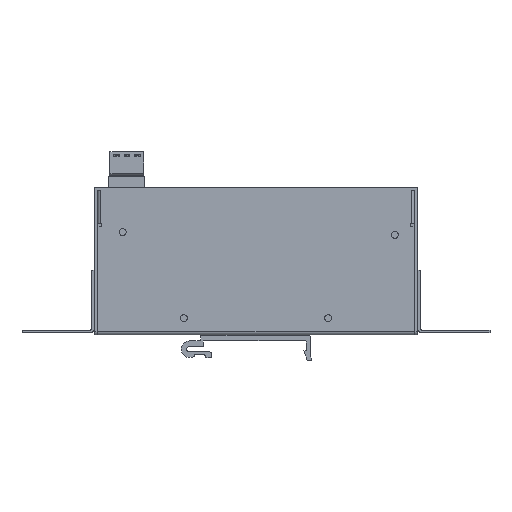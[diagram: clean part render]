
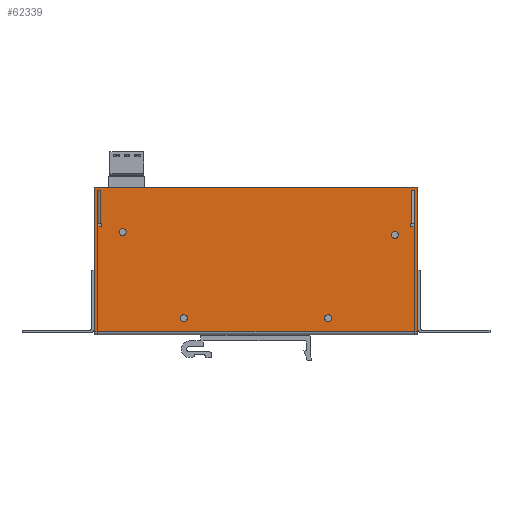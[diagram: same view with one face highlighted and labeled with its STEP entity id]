
A CAD part, front view. The second image highlights one B-rep face of the part: STEP entity #62339.
In plain terms, the highlighted planar face has unit normal (0, -1, 0).
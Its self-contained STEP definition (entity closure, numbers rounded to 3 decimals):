
#724=FACE_BOUND('',#8395,.T.);
#725=FACE_BOUND('',#8396,.T.);
#726=FACE_BOUND('',#8397,.T.);
#727=FACE_BOUND('',#8398,.T.);
#1704=PLANE('',#69139);
#4773=FACE_OUTER_BOUND('',#8394,.T.);
#8394=EDGE_LOOP('',(#54420,#54421,#54422,#54423,#54424,#54425,#54426,#54427,
#54428,#54429,#54430,#54431,#54432,#54433,#54434,#54435,#54436,#54437));
#8395=EDGE_LOOP('',(#54438));
#8396=EDGE_LOOP('',(#54439));
#8397=EDGE_LOOP('',(#54440));
#8398=EDGE_LOOP('',(#54441));
#13189=LINE('',#109175,#18421);
#13195=LINE('',#109200,#18427);
#13207=LINE('',#109258,#18439);
#13213=LINE('',#109269,#18445);
#13238=LINE('',#109367,#18470);
#13240=LINE('',#109371,#18472);
#13242=LINE('',#109377,#18474);
#13244=LINE('',#109380,#18476);
#13320=LINE('',#109581,#18552);
#13349=LINE('',#109776,#18581);
#13350=LINE('',#109778,#18582);
#13351=LINE('',#109780,#18583);
#13352=LINE('',#109782,#18584);
#13353=LINE('',#109784,#18585);
#13354=LINE('',#109786,#18586);
#13355=LINE('',#109789,#18587);
#18421=VECTOR('',#86087,10.);
#18427=VECTOR('',#86109,1000.);
#18439=VECTOR('',#86179,10.);
#18445=VECTOR('',#86187,1000.);
#18470=VECTOR('',#86268,10.);
#18472=VECTOR('',#86272,1000.);
#18474=VECTOR('',#86278,1000.);
#18476=VECTOR('',#86280,1000.);
#18552=VECTOR('',#86506,10.);
#18581=VECTOR('',#86741,1000.);
#18582=VECTOR('',#86742,1000.);
#18583=VECTOR('',#86743,1000.);
#18584=VECTOR('',#86744,1000.);
#18585=VECTOR('',#86745,1000.);
#18586=VECTOR('',#86746,1000.);
#18587=VECTOR('',#86749,1000.);
#22925=CIRCLE('',#69038,1.25);
#22928=CIRCLE('',#69044,1.25);
#22931=CIRCLE('',#69050,1.25);
#22934=CIRCLE('',#69056,1.25);
#22968=CIRCLE('',#69106,0.5);
#22989=CIRCLE('',#69140,0.5);
#28516=VERTEX_POINT('',#109171);
#28518=VERTEX_POINT('',#109174);
#28527=VERTEX_POINT('',#109194);
#28529=VERTEX_POINT('',#109198);
#28550=VERTEX_POINT('',#109267);
#28593=VERTEX_POINT('',#109361);
#28595=VERTEX_POINT('',#109365);
#28596=VERTEX_POINT('',#109369);
#28598=VERTEX_POINT('',#109375);
#28599=VERTEX_POINT('',#109379);
#28650=VERTEX_POINT('',#109583);
#28653=VERTEX_POINT('',#109594);
#28656=VERTEX_POINT('',#109605);
#28659=VERTEX_POINT('',#109616);
#28686=VERTEX_POINT('',#109699);
#28687=VERTEX_POINT('',#109700);
#28713=VERTEX_POINT('',#109777);
#28714=VERTEX_POINT('',#109779);
#28715=VERTEX_POINT('',#109781);
#28716=VERTEX_POINT('',#109783);
#28717=VERTEX_POINT('',#109785);
#28718=VERTEX_POINT('',#109787);
#37168=EDGE_CURVE('',#28516,#28518,#13189,.T.);
#37181=EDGE_CURVE('',#28529,#28527,#13195,.T.);
#37210=EDGE_CURVE('',#28518,#28529,#13207,.T.);
#37216=EDGE_CURVE('',#28516,#28550,#13213,.T.);
#37266=EDGE_CURVE('',#28593,#28595,#13238,.T.);
#37268=EDGE_CURVE('',#28596,#28595,#13240,.T.);
#37271=EDGE_CURVE('',#28598,#28596,#13242,.T.);
#37273=EDGE_CURVE('',#28527,#28599,#13244,.T.);
#37375=EDGE_CURVE('',#28550,#28593,#13320,.T.);
#37376=EDGE_CURVE('',#28650,#28650,#22925,.T.);
#37381=EDGE_CURVE('',#28653,#28653,#22928,.T.);
#37386=EDGE_CURVE('',#28656,#28656,#22931,.T.);
#37391=EDGE_CURVE('',#28659,#28659,#22934,.T.);
#37431=EDGE_CURVE('',#28686,#28687,#22968,.T.);
#37468=EDGE_CURVE('',#28598,#28686,#13349,.T.);
#37469=EDGE_CURVE('',#28687,#28713,#13350,.T.);
#37470=EDGE_CURVE('',#28713,#28714,#13351,.T.);
#37471=EDGE_CURVE('',#28714,#28715,#13352,.T.);
#37472=EDGE_CURVE('',#28715,#28716,#13353,.T.);
#37473=EDGE_CURVE('',#28716,#28717,#13354,.T.);
#37474=EDGE_CURVE('',#28717,#28718,#22989,.T.);
#37475=EDGE_CURVE('',#28718,#28599,#13355,.T.);
#54420=ORIENTED_EDGE('',*,*,#37468,.T.);
#54421=ORIENTED_EDGE('',*,*,#37431,.T.);
#54422=ORIENTED_EDGE('',*,*,#37469,.T.);
#54423=ORIENTED_EDGE('',*,*,#37470,.T.);
#54424=ORIENTED_EDGE('',*,*,#37471,.T.);
#54425=ORIENTED_EDGE('',*,*,#37472,.T.);
#54426=ORIENTED_EDGE('',*,*,#37473,.T.);
#54427=ORIENTED_EDGE('',*,*,#37474,.T.);
#54428=ORIENTED_EDGE('',*,*,#37475,.T.);
#54429=ORIENTED_EDGE('',*,*,#37273,.F.);
#54430=ORIENTED_EDGE('',*,*,#37181,.F.);
#54431=ORIENTED_EDGE('',*,*,#37210,.F.);
#54432=ORIENTED_EDGE('',*,*,#37168,.F.);
#54433=ORIENTED_EDGE('',*,*,#37216,.T.);
#54434=ORIENTED_EDGE('',*,*,#37375,.T.);
#54435=ORIENTED_EDGE('',*,*,#37266,.T.);
#54436=ORIENTED_EDGE('',*,*,#37268,.F.);
#54437=ORIENTED_EDGE('',*,*,#37271,.F.);
#54438=ORIENTED_EDGE('',*,*,#37376,.F.);
#54439=ORIENTED_EDGE('',*,*,#37381,.F.);
#54440=ORIENTED_EDGE('',*,*,#37386,.F.);
#54441=ORIENTED_EDGE('',*,*,#37391,.F.);
#62339=ADVANCED_FACE('',(#4773,#724,#725,#726,#727),#1704,.T.);
#69038=AXIS2_PLACEMENT_3D('',#109584,#86509,#86510);
#69044=AXIS2_PLACEMENT_3D('',#109595,#86523,#86524);
#69050=AXIS2_PLACEMENT_3D('',#109606,#86537,#86538);
#69056=AXIS2_PLACEMENT_3D('',#109617,#86551,#86552);
#69106=AXIS2_PLACEMENT_3D('',#109701,#86657,#86658);
#69139=AXIS2_PLACEMENT_3D('',#109775,#86739,#86740);
#69140=AXIS2_PLACEMENT_3D('',#109788,#86747,#86748);
#86087=DIRECTION('',(0.,0.,-1.));
#86109=DIRECTION('',(0.,0.,1.));
#86179=DIRECTION('',(-1.,0.,0.));
#86187=DIRECTION('',(-1.,0.,0.));
#86268=DIRECTION('',(1.,0.,0.));
#86272=DIRECTION('',(0.,0.,-1.));
#86278=DIRECTION('',(-1.,0.,0.));
#86280=DIRECTION('',(-1.,0.,0.));
#86506=DIRECTION('',(0.,0.,-1.));
#86509=DIRECTION('center_axis',(0.,-1.,0.));
#86510=DIRECTION('ref_axis',(0.,0.,1.));
#86523=DIRECTION('center_axis',(0.,-1.,0.));
#86524=DIRECTION('ref_axis',(0.,0.,1.));
#86537=DIRECTION('center_axis',(0.,-1.,0.));
#86538=DIRECTION('ref_axis',(0.,0.,1.));
#86551=DIRECTION('center_axis',(0.,-1.,0.));
#86552=DIRECTION('ref_axis',(0.,0.,1.));
#86657=DIRECTION('center_axis',(0.,1.,0.));
#86658=DIRECTION('ref_axis',(1.,0.,0.));
#86739=DIRECTION('center_axis',(0.,-1.,0.));
#86740=DIRECTION('ref_axis',(1.,0.,0.));
#86741=DIRECTION('',(0.,0.,-1.));
#86742=DIRECTION('',(-1.,0.,0.));
#86743=DIRECTION('',(0.,0.,-1.));
#86744=DIRECTION('',(1.,0.,0.));
#86745=DIRECTION('',(0.,0.,1.));
#86746=DIRECTION('',(-1.,0.,0.));
#86747=DIRECTION('center_axis',(0.,1.,0.));
#86748=DIRECTION('ref_axis',(1.,0.,0.));
#86749=DIRECTION('',(0.,0.,1.));
#109171=CARTESIAN_POINT('',(58.2,-22.224,-12.91));
#109174=CARTESIAN_POINT('',(58.2,-22.224,-64.91));
#109175=CARTESIAN_POINT('',(58.2,-22.224,-12.91));
#109194=CARTESIAN_POINT('',(57.2,-22.224,-13.91));
#109198=CARTESIAN_POINT('',(57.2,-22.224,-64.91));
#109200=CARTESIAN_POINT('',(57.2,-22.224,-38.91));
#109258=CARTESIAN_POINT('',(58.2,-22.224,-64.91));
#109267=CARTESIAN_POINT('',(-58.2,-22.224,-12.91));
#109269=CARTESIAN_POINT('',(0.,-22.224,-12.91));
#109361=CARTESIAN_POINT('',(-58.2,-22.224,-64.91));
#109365=CARTESIAN_POINT('',(-57.2,-22.224,-64.91));
#109367=CARTESIAN_POINT('',(-58.2,-22.224,-64.91));
#109369=CARTESIAN_POINT('',(-57.2,-22.224,-13.91));
#109371=CARTESIAN_POINT('',(-57.2,-22.224,-38.91));
#109375=CARTESIAN_POINT('',(-56.,-22.224,-13.91));
#109377=CARTESIAN_POINT('',(0.,-22.224,-13.91));
#109379=CARTESIAN_POINT('',(56.,-22.224,-13.91));
#109380=CARTESIAN_POINT('',(0.,-22.224,-13.91));
#109581=CARTESIAN_POINT('',(-58.2,-22.224,-12.91));
#109583=CARTESIAN_POINT('',(-48.,-22.224,-30.16));
#109584=CARTESIAN_POINT('Origin',(-48.,-22.224,-28.91));
#109594=CARTESIAN_POINT('',(50.,-22.224,-31.16));
#109595=CARTESIAN_POINT('Origin',(50.,-22.224,-29.91));
#109605=CARTESIAN_POINT('',(-26.,-22.224,-61.16));
#109606=CARTESIAN_POINT('Origin',(-26.,-22.224,-59.91));
#109616=CARTESIAN_POINT('',(26.,-22.224,-61.16));
#109617=CARTESIAN_POINT('Origin',(26.,-22.224,-59.91));
#109699=CARTESIAN_POINT('',(-56.,-22.224,-25.91));
#109700=CARTESIAN_POINT('',(-56.,-22.224,-26.91));
#109701=CARTESIAN_POINT('Origin',(-56.,-22.224,-26.41));
#109775=CARTESIAN_POINT('Origin',(-59.28,-22.224,-65.93));
#109776=CARTESIAN_POINT('',(-56.,-22.224,-39.41));
#109777=CARTESIAN_POINT('',(-57.,-22.224,-26.91));
#109778=CARTESIAN_POINT('',(0.,-22.224,-26.91));
#109779=CARTESIAN_POINT('',(-57.,-22.224,-64.91));
#109780=CARTESIAN_POINT('',(-57.,-22.224,-39.41));
#109781=CARTESIAN_POINT('',(57.,-22.224,-64.91));
#109782=CARTESIAN_POINT('',(0.,-22.224,-64.91));
#109783=CARTESIAN_POINT('',(57.,-22.224,-26.91));
#109784=CARTESIAN_POINT('',(57.,-22.224,-39.41));
#109785=CARTESIAN_POINT('',(56.,-22.224,-26.91));
#109786=CARTESIAN_POINT('',(0.,-22.224,-26.91));
#109787=CARTESIAN_POINT('',(56.,-22.224,-25.91));
#109788=CARTESIAN_POINT('Origin',(56.,-22.224,-26.41));
#109789=CARTESIAN_POINT('',(56.,-22.224,-39.41));
